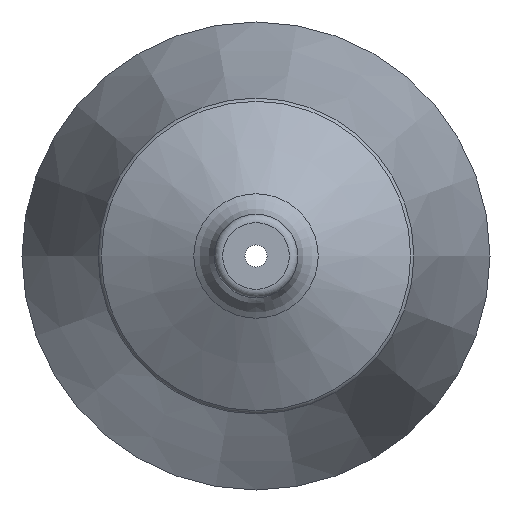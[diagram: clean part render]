
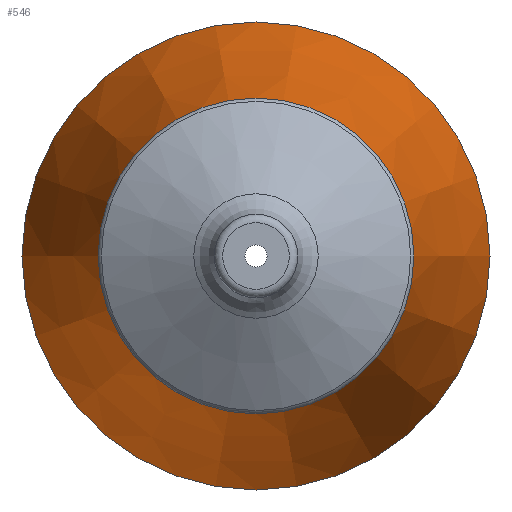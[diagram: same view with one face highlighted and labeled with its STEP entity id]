
A CAD part, left-side view. The second image highlights one B-rep face of the part: STEP entity #546.
In plain terms, the highlighted conical face has half-angle 14.526 degrees and reference radius 70.496 mm.
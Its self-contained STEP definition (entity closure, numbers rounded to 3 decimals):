
#20=CONICAL_SURFACE('',#646,70.496,0.254);
#61=FACE_OUTER_BOUND('',#90,.T.);
#90=EDGE_LOOP('',(#482,#483,#484,#485,#486,#487,#488,#489));
#106=LINE('',#1027,#118);
#118=VECTOR('',#840,70.496);
#178=CIRCLE('',#643,56.81);
#179=CIRCLE('',#644,56.81);
#180=CIRCLE('',#645,56.81);
#181=CIRCLE('',#647,84.182);
#182=CIRCLE('',#648,84.182);
#183=CIRCLE('',#649,84.182);
#245=VERTEX_POINT('',#1018);
#246=VERTEX_POINT('',#1020);
#247=VERTEX_POINT('',#1022);
#248=VERTEX_POINT('',#1026);
#249=VERTEX_POINT('',#1028);
#250=VERTEX_POINT('',#1030);
#327=EDGE_CURVE('',#245,#246,#178,.T.);
#328=EDGE_CURVE('',#246,#247,#179,.T.);
#329=EDGE_CURVE('',#247,#245,#180,.T.);
#330=EDGE_CURVE('',#247,#248,#106,.T.);
#331=EDGE_CURVE('',#248,#249,#181,.T.);
#332=EDGE_CURVE('',#249,#250,#182,.T.);
#333=EDGE_CURVE('',#250,#248,#183,.T.);
#482=ORIENTED_EDGE('',*,*,#328,.F.);
#483=ORIENTED_EDGE('',*,*,#327,.F.);
#484=ORIENTED_EDGE('',*,*,#329,.F.);
#485=ORIENTED_EDGE('',*,*,#330,.T.);
#486=ORIENTED_EDGE('',*,*,#331,.T.);
#487=ORIENTED_EDGE('',*,*,#332,.T.);
#488=ORIENTED_EDGE('',*,*,#333,.T.);
#489=ORIENTED_EDGE('',*,*,#330,.F.);
#546=ADVANCED_FACE('',(#61),#20,.T.);
#643=AXIS2_PLACEMENT_3D('',#1021,#832,#833);
#644=AXIS2_PLACEMENT_3D('',#1023,#834,#835);
#645=AXIS2_PLACEMENT_3D('',#1024,#836,#837);
#646=AXIS2_PLACEMENT_3D('',#1025,#838,#839);
#647=AXIS2_PLACEMENT_3D('',#1029,#841,#842);
#648=AXIS2_PLACEMENT_3D('',#1031,#843,#844);
#649=AXIS2_PLACEMENT_3D('',#1032,#845,#846);
#832=DIRECTION('center_axis',(-1.,0.,0.));
#833=DIRECTION('ref_axis',(0.,0.,1.));
#834=DIRECTION('center_axis',(-1.,0.,0.));
#835=DIRECTION('ref_axis',(0.,0.,1.));
#836=DIRECTION('center_axis',(-1.,0.,0.));
#837=DIRECTION('ref_axis',(0.,0.,1.));
#838=DIRECTION('center_axis',(1.,0.,0.));
#839=DIRECTION('ref_axis',(0.,-1.,0.));
#840=DIRECTION('',(0.968,0.251,0.));
#841=DIRECTION('center_axis',(-1.,0.,0.));
#842=DIRECTION('ref_axis',(0.,0.,1.));
#843=DIRECTION('center_axis',(-1.,0.,0.));
#844=DIRECTION('ref_axis',(0.,0.,1.));
#845=DIRECTION('center_axis',(-1.,0.,0.));
#846=DIRECTION('ref_axis',(0.,0.,1.));
#1018=CARTESIAN_POINT('',(104.084,0.,-56.81));
#1020=CARTESIAN_POINT('',(104.084,-56.81,0.));
#1021=CARTESIAN_POINT('Origin',(104.084,0.,0.));
#1022=CARTESIAN_POINT('',(104.084,56.81,0.));
#1023=CARTESIAN_POINT('Origin',(104.084,0.,0.));
#1024=CARTESIAN_POINT('Origin',(104.084,0.,0.));
#1025=CARTESIAN_POINT('Origin',(156.904,0.,0.));
#1026=CARTESIAN_POINT('',(209.724,84.182,0.));
#1027=CARTESIAN_POINT('',(156.904,70.496,0.));
#1028=CARTESIAN_POINT('',(209.724,0.,-84.182));
#1029=CARTESIAN_POINT('Origin',(209.724,0.,0.));
#1030=CARTESIAN_POINT('',(209.724,-84.182,0.));
#1031=CARTESIAN_POINT('Origin',(209.724,0.,0.));
#1032=CARTESIAN_POINT('Origin',(209.724,0.,0.));
